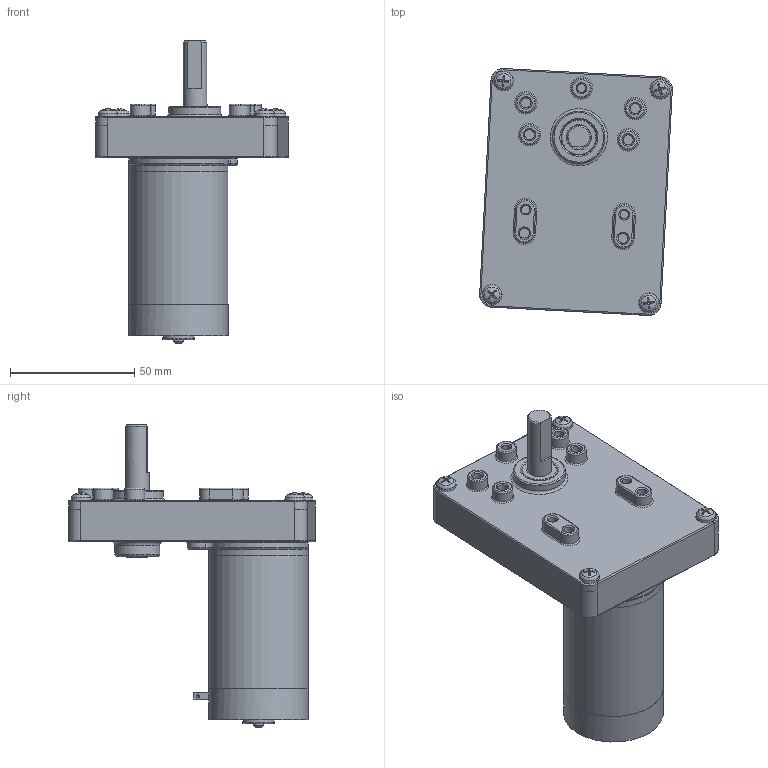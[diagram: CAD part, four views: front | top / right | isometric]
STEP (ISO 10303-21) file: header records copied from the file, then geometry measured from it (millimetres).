
FILE_DESCRIPTION(/* description */ (''),/* implementation_level */ '2;1');
FILE_NAME(/* name */ 'C:\Users\byjeong\Desktop\3D도면\SP45BT.stp',/* time_stamp */ '2015-03-31T15:27:01+09:00',/* author */ ('byjeong'),/* organization */ (''),/* preprocessor_version */ 'ST-DEVELOPER v15.6',/* originating_system */ 'Autodesk Inventor 2015',/* authorisation */ '');
FILE_SCHEMA (('AUTOMOTIVE_DESIGN { 1 0 10303 214 3 1 1 }'));
Length unit declared in the file: millimetre
Products named in the file (10): SQ BOX ASSY; RM4TYPE_BRUSH_BRAKET_TERMINAL; RM4TYPE_REAR_HOUSING; REAR_HOUSING__ASS'Y_TERMINAL; RM4TYPE_FRONT_HOUSING_; RM4TYPE_PIPE_HOUSING_pi40XL53.5; RM45TYPE_SHAFT; AS 1427 Z - 미터 M3.5 x 5; RM45ㅁBT; 조립품23
Bounding box: 77.42 x 99.18 x 121.47 mm (x, y, z)
Volume: 149885.7 mm3; surface area: 48412.5 mm2
Topology: 12 solids, 12 shells, 472 faces, 1097 edges, 688 vertices
Faces by surface type: plane 160, cone 119, cylinder 108, torus 78, sphere 4, bspline 3
Full cylindrical faces by diameter (mm): 1.2 x2, 2.7 x4, 2.8 x4, 3.132 x2, 3.3 x4, 3.4 x3, 3.5 x3, 3.571 x3, 3.7 x2, 3.9 x1, 3.969 x1, 4 x10, 4.4 x3, 5 x1, 6.1 x2, 6.5 x1, 6.65 x1, 8 x5, 9.5 x3, 12.7 x3, 13.5 x2, 14.3 x1, 18 x1, 21 x1, 36.5 x1, 40 x3
Entity records: 12187 total; most frequent: CARTESIAN_POINT 2888, DIRECTION 2002, ORIENTED_EDGE 1642, AXIS2_PLACEMENT_3D 899, EDGE_CURVE 821, EDGE_LOOP 651, VERTEX_POINT 594, CIRCLE 443
